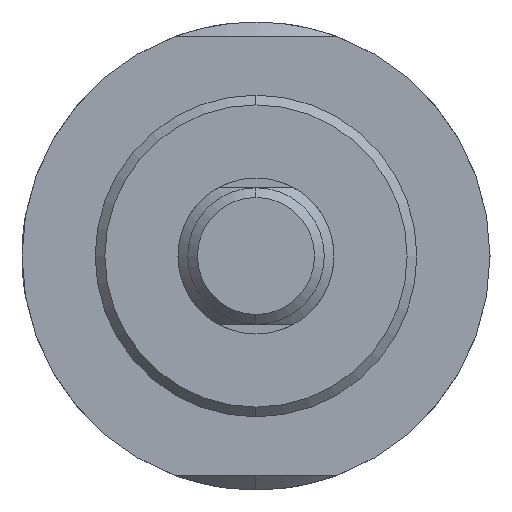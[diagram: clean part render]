
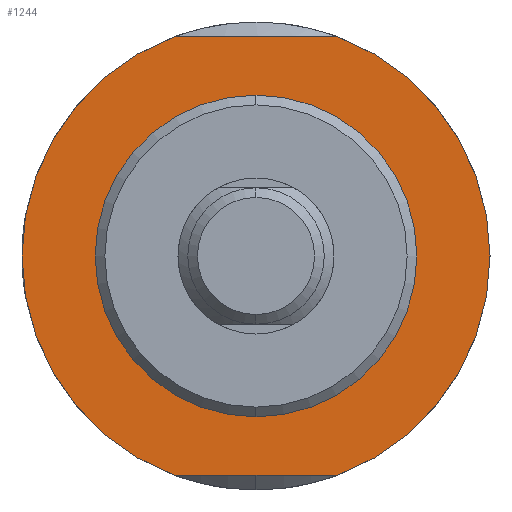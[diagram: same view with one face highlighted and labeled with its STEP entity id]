
A CAD part, left-side view. The second image highlights one B-rep face of the part: STEP entity #1244.
In plain terms, the highlighted planar face has unit normal (-1, 0, 0).
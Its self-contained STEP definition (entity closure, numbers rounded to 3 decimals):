
#10 = EDGE_CURVE ( 'NONE', #1076, #1831, #1123, .T. ) ;
#11 = DIRECTION ( 'NONE',  ( 0., 0., 1. ) ) ;
#50 = ORIENTED_EDGE ( 'NONE', *, *, #1590, .F. ) ;
#72 = VERTEX_POINT ( 'NONE', #1318 ) ;
#78 = DIRECTION ( 'NONE',  ( 0., 0., 1. ) ) ;
#81 = LINE ( 'NONE', #882, #1083 ) ;
#86 = DIRECTION ( 'NONE',  ( 1., 0., 0. ) ) ;
#118 = CARTESIAN_POINT ( 'NONE',  ( 50., 0., 0. ) ) ;
#141 = CARTESIAN_POINT ( 'NONE',  ( 50., 15., -22.5 ) ) ;
#254 = AXIS2_PLACEMENT_3D ( 'NONE', #719, #1483, #11 ) ;
#255 = DIRECTION ( 'NONE',  ( -1., 0., 0. ) ) ;
#270 = LINE ( 'NONE', #141, #1527 ) ;
#452 = CIRCLE ( 'NONE', #1643, 16.5 ) ;
#525 = VERTEX_POINT ( 'NONE', #1211 ) ;
#551 = EDGE_CURVE ( 'NONE', #525, #1831, #270, .T. ) ;
#623 = VERTEX_POINT ( 'NONE', #992 ) ;
#627 = DIRECTION ( 'NONE',  ( 0., -1., 0. ) ) ;
#633 = DIRECTION ( 'NONE',  ( 0., 0., 1. ) ) ;
#635 = CARTESIAN_POINT ( 'NONE',  ( 50., 0., 16.5 ) ) ;
#653 = DIRECTION ( 'NONE',  ( -1., 0., 0. ) ) ;
#664 = ORIENTED_EDGE ( 'NONE', *, *, #1132, .F. ) ;
#719 = CARTESIAN_POINT ( 'NONE',  ( 50., 0., 0. ) ) ;
#748 = DIRECTION ( 'NONE',  ( 0., 0., -1. ) ) ;
#775 = DIRECTION ( 'NONE',  ( 0., 1., 0. ) ) ;
#789 = EDGE_CURVE ( 'NONE', #525, #72, #938, .T. ) ;
#856 = FACE_OUTER_BOUND ( 'NONE', #1296, .T. ) ;
#882 = CARTESIAN_POINT ( 'NONE',  ( 50., 15., 22.5 ) ) ;
#896 = ORIENTED_EDGE ( 'NONE', *, *, #551, .F. ) ;
#930 = EDGE_LOOP ( 'NONE', ( #50, #664 ) ) ;
#938 = CIRCLE ( 'NONE', #1489, 24. ) ;
#956 = CARTESIAN_POINT ( 'NONE',  ( 50., 0., 0. ) ) ;
#961 = PLANE ( 'NONE',  #1536 ) ;
#991 = ORIENTED_EDGE ( 'NONE', *, *, #10, .T. ) ;
#992 = CARTESIAN_POINT ( 'NONE',  ( 50., 0., -16.5 ) ) ;
#1029 = CARTESIAN_POINT ( 'NONE',  ( 50., 0., -24. ) ) ;
#1069 = DIRECTION ( 'NONE',  ( 0., 0., 1. ) ) ;
#1076 = VERTEX_POINT ( 'NONE', #1944 ) ;
#1083 = VECTOR ( 'NONE', #627, 1000. ) ;
#1105 = AXIS2_PLACEMENT_3D ( 'NONE', #118, #255, #633 ) ;
#1123 = CIRCLE ( 'NONE', #254, 24. ) ;
#1132 = EDGE_CURVE ( 'NONE', #623, #1792, #452, .T. ) ;
#1152 = EDGE_CURVE ( 'NONE', #1076, #72, #81, .T. ) ;
#1211 = CARTESIAN_POINT ( 'NONE',  ( 50., -8.352, -22.5 ) ) ;
#1244 = ADVANCED_FACE ( 'NONE', ( #1486, #856 ), #961, .F. ) ;
#1296 = EDGE_LOOP ( 'NONE', ( #991, #896, #1610, #1440 ) ) ;
#1318 = CARTESIAN_POINT ( 'NONE',  ( 50., -8.352, 22.5 ) ) ;
#1440 = ORIENTED_EDGE ( 'NONE', *, *, #1152, .F. ) ;
#1483 = DIRECTION ( 'NONE',  ( -1., 0., 0. ) ) ;
#1486 = FACE_BOUND ( 'NONE', #930, .T. ) ;
#1489 = AXIS2_PLACEMENT_3D ( 'NONE', #1540, #1906, #1069 ) ;
#1527 = VECTOR ( 'NONE', #775, 1000. ) ;
#1536 = AXIS2_PLACEMENT_3D ( 'NONE', #1029, #86, #748 ) ;
#1540 = CARTESIAN_POINT ( 'NONE',  ( 50., 0., 0. ) ) ;
#1590 = EDGE_CURVE ( 'NONE', #1792, #623, #1733, .T. ) ;
#1610 = ORIENTED_EDGE ( 'NONE', *, *, #789, .T. ) ;
#1643 = AXIS2_PLACEMENT_3D ( 'NONE', #956, #653, #78 ) ;
#1733 = CIRCLE ( 'NONE', #1105, 16.5 ) ;
#1792 = VERTEX_POINT ( 'NONE', #635 ) ;
#1831 = VERTEX_POINT ( 'NONE', #1991 ) ;
#1906 = DIRECTION ( 'NONE',  ( -1., 0., 0. ) ) ;
#1944 = CARTESIAN_POINT ( 'NONE',  ( 50., 8.352, 22.5 ) ) ;
#1991 = CARTESIAN_POINT ( 'NONE',  ( 50., 8.352, -22.5 ) ) ;
